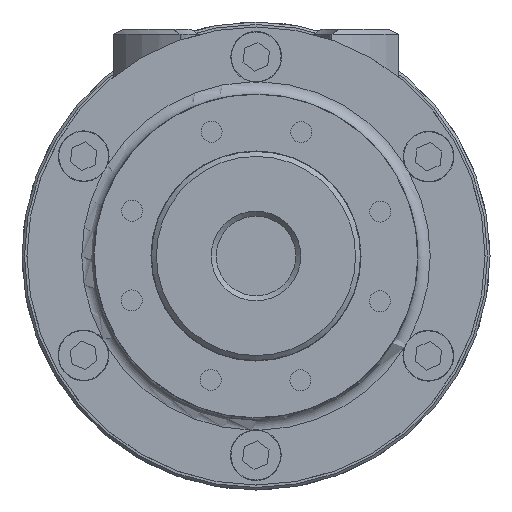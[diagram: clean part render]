
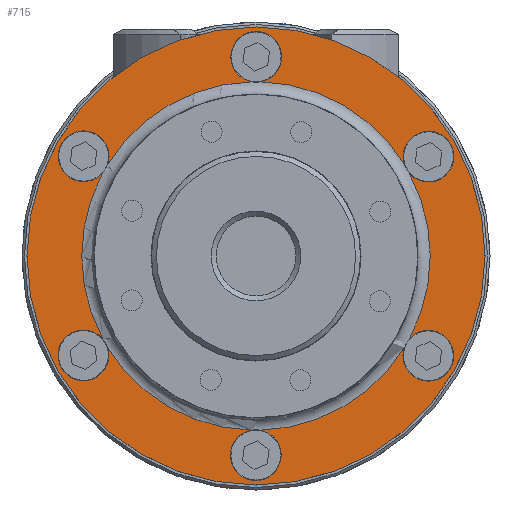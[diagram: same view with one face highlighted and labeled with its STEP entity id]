
A CAD part, left-side view. The second image highlights one B-rep face of the part: STEP entity #715.
In plain terms, the highlighted planar face has unit normal (-1, 0, 0).
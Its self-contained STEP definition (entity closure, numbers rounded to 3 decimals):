
#715 = ADVANCED_FACE( '', ( #1448, #1449 ), #1450, .F. );
#1448 = FACE_OUTER_BOUND( '', #2467, .T. );
#1449 = FACE_BOUND( '', #2468, .T. );
#1450 = PLANE( '', #2469 );
#2467 = EDGE_LOOP( '', ( #4103 ) );
#2468 = EDGE_LOOP( '', ( #4104, #4105, #4106, #4107, #4108, #4109, #4110, #4111, #4112, #4113, #4114, #4115 ) );
#2469 = AXIS2_PLACEMENT_3D( '', #4116, #4117, #4118 );
#4103 = ORIENTED_EDGE( '', *, *, #5834, .T. );
#4104 = ORIENTED_EDGE( '', *, *, #5863, .T. );
#4105 = ORIENTED_EDGE( '', *, *, #5864, .T. );
#4106 = ORIENTED_EDGE( '', *, *, #5865, .T. );
#4107 = ORIENTED_EDGE( '', *, *, #5861, .T. );
#4108 = ORIENTED_EDGE( '', *, *, #5866, .T. );
#4109 = ORIENTED_EDGE( '', *, *, #5857, .T. );
#4110 = ORIENTED_EDGE( '', *, *, #5867, .T. );
#4111 = ORIENTED_EDGE( '', *, *, #5799, .T. );
#4112 = ORIENTED_EDGE( '', *, *, #5868, .T. );
#4113 = ORIENTED_EDGE( '', *, *, #5858, .T. );
#4114 = ORIENTED_EDGE( '', *, *, #5869, .T. );
#4115 = ORIENTED_EDGE( '', *, *, #5826, .T. );
#4116 = CARTESIAN_POINT( '', ( -22., 46., 0. ) );
#4117 = DIRECTION( '', ( 1., 0., 0. ) );
#4118 = DIRECTION( '', ( 0., 1., 0. ) );
#5799 = EDGE_CURVE( '', #6716, #6715, #6718, .T. );
#5826 = EDGE_CURVE( '', #6762, #6761, #6765, .T. );
#5834 = EDGE_CURVE( '', #6778, #6778, #6779, .F. );
#5857 = EDGE_CURVE( '', #6722, #6721, #6815, .T. );
#5858 = EDGE_CURVE( '', #6727, #6726, #6816, .T. );
#5861 = EDGE_CURVE( '', #6818, #6817, #6821, .T. );
#5863 = EDGE_CURVE( '', #6761, #6618, #6824, .T. );
#5864 = EDGE_CURVE( '', #6618, #6617, #6825, .T. );
#5865 = EDGE_CURVE( '', #6617, #6818, #6826, .T. );
#5866 = EDGE_CURVE( '', #6817, #6722, #6827, .T. );
#5867 = EDGE_CURVE( '', #6721, #6716, #6828, .T. );
#5868 = EDGE_CURVE( '', #6715, #6727, #6829, .T. );
#5869 = EDGE_CURVE( '', #6726, #6762, #6830, .T. );
#6617 = VERTEX_POINT( '', #8245 );
#6618 = VERTEX_POINT( '', #8246 );
#6715 = VERTEX_POINT( '', #8372 );
#6716 = VERTEX_POINT( '', #8373 );
#6718 = CIRCLE( '', #8375, 5.1 );
#6721 = VERTEX_POINT( '', #8378 );
#6722 = VERTEX_POINT( '', #8379 );
#6726 = VERTEX_POINT( '', #8383 );
#6727 = VERTEX_POINT( '', #8384 );
#6761 = VERTEX_POINT( '', #8429 );
#6762 = VERTEX_POINT( '', #8430 );
#6765 = CIRCLE( '', #8433, 5.1 );
#6778 = VERTEX_POINT( '', #8449 );
#6779 = CIRCLE( '', #8450, 46. );
#6815 = CIRCLE( '', #8507, 5.1 );
#6816 = CIRCLE( '', #8508, 5.1 );
#6817 = VERTEX_POINT( '', #8509 );
#6818 = VERTEX_POINT( '', #8510 );
#6821 = CIRCLE( '', #8513, 5.1 );
#6824 = CIRCLE( '', #8516, 35. );
#6825 = CIRCLE( '', #8517, 5.1 );
#6826 = CIRCLE( '', #8518, 35. );
#6827 = CIRCLE( '', #8519, 35. );
#6828 = CIRCLE( '', #8520, 35. );
#6829 = CIRCLE( '', #8521, 35. );
#6830 = CIRCLE( '', #8522, 35. );
#8245 = CARTESIAN_POINT( '', ( -22., 29.83, 18.308 ) );
#8246 = CARTESIAN_POINT( '', ( -22., 30.77, 16.68 ) );
#8372 = CARTESIAN_POINT( '', ( -22., -29.83, -18.308 ) );
#8373 = CARTESIAN_POINT( '', ( -22., -30.77, -16.68 ) );
#8375 = AXIS2_PLACEMENT_3D( '', #10216, #10217, #10218 );
#8378 = CARTESIAN_POINT( '', ( -22., -30.77, 16.68 ) );
#8379 = CARTESIAN_POINT( '', ( -22., -29.83, 18.308 ) );
#8383 = CARTESIAN_POINT( '', ( -22., 0.94, -34.987 ) );
#8384 = CARTESIAN_POINT( '', ( -22., -0.94, -34.987 ) );
#8429 = CARTESIAN_POINT( '', ( -22., 30.77, -16.68 ) );
#8430 = CARTESIAN_POINT( '', ( -22., 29.83, -18.308 ) );
#8433 = AXIS2_PLACEMENT_3D( '', #10281, #10282, #10283 );
#8449 = CARTESIAN_POINT( '', ( -22., 0., -46. ) );
#8450 = AXIS2_PLACEMENT_3D( '', #10302, #10303, #10304 );
#8507 = AXIS2_PLACEMENT_3D( '', #10350, #10351, #10352 );
#8508 = AXIS2_PLACEMENT_3D( '', #10353, #10354, #10355 );
#8509 = CARTESIAN_POINT( '', ( -22., -0.94, 34.987 ) );
#8510 = CARTESIAN_POINT( '', ( -22., 0.94, 34.987 ) );
#8513 = AXIS2_PLACEMENT_3D( '', #10362, #10363, #10364 );
#8516 = AXIS2_PLACEMENT_3D( '', #10368, #10369, #10370 );
#8517 = AXIS2_PLACEMENT_3D( '', #10371, #10372, #10373 );
#8518 = AXIS2_PLACEMENT_3D( '', #10374, #10375, #10376 );
#8519 = AXIS2_PLACEMENT_3D( '', #10377, #10378, #10379 );
#8520 = AXIS2_PLACEMENT_3D( '', #10380, #10381, #10382 );
#8521 = AXIS2_PLACEMENT_3D( '', #10383, #10384, #10385 );
#8522 = AXIS2_PLACEMENT_3D( '', #10386, #10387, #10388 );
#10216 = CARTESIAN_POINT( '', ( -22., -34.641, -20. ) );
#10217 = DIRECTION( '', ( 1., 0., 0. ) );
#10218 = DIRECTION( '', ( 0., 0., -1. ) );
#10281 = CARTESIAN_POINT( '', ( -22., 34.641, -20. ) );
#10282 = DIRECTION( '', ( 1., 0., 0. ) );
#10283 = DIRECTION( '', ( 0., 0., -1. ) );
#10302 = CARTESIAN_POINT( '', ( -22., 0., 0. ) );
#10303 = DIRECTION( '', ( 1., 0., 0. ) );
#10304 = DIRECTION( '', ( 0., 0., -1. ) );
#10350 = CARTESIAN_POINT( '', ( -22., -34.641, 20. ) );
#10351 = DIRECTION( '', ( 1., 0., 0. ) );
#10352 = DIRECTION( '', ( 0., 0., -1. ) );
#10353 = CARTESIAN_POINT( '', ( -22., 0., -40. ) );
#10354 = DIRECTION( '', ( 1., 0., 0. ) );
#10355 = DIRECTION( '', ( 0., 0., -1. ) );
#10362 = CARTESIAN_POINT( '', ( -22., 0., 40. ) );
#10363 = DIRECTION( '', ( 1., 0., 0. ) );
#10364 = DIRECTION( '', ( 0., 0., -1. ) );
#10368 = CARTESIAN_POINT( '', ( -22., 0., 0. ) );
#10369 = DIRECTION( '', ( 1., 0., 0. ) );
#10370 = DIRECTION( '', ( 0., 0., -1. ) );
#10371 = CARTESIAN_POINT( '', ( -22., 34.641, 20. ) );
#10372 = DIRECTION( '', ( 1., 0., 0. ) );
#10373 = DIRECTION( '', ( 0., 0., -1. ) );
#10374 = CARTESIAN_POINT( '', ( -22., 0., 0. ) );
#10375 = DIRECTION( '', ( 1., 0., 0. ) );
#10376 = DIRECTION( '', ( 0., 0., -1. ) );
#10377 = CARTESIAN_POINT( '', ( -22., 0., 0. ) );
#10378 = DIRECTION( '', ( 1., 0., 0. ) );
#10379 = DIRECTION( '', ( 0., 0., -1. ) );
#10380 = CARTESIAN_POINT( '', ( -22., 0., 0. ) );
#10381 = DIRECTION( '', ( 1., 0., 0. ) );
#10382 = DIRECTION( '', ( 0., 0., -1. ) );
#10383 = CARTESIAN_POINT( '', ( -22., 0., 0. ) );
#10384 = DIRECTION( '', ( 1., 0., 0. ) );
#10385 = DIRECTION( '', ( 0., 0., -1. ) );
#10386 = CARTESIAN_POINT( '', ( -22., 0., 0. ) );
#10387 = DIRECTION( '', ( 1., 0., 0. ) );
#10388 = DIRECTION( '', ( 0., 0., -1. ) );
